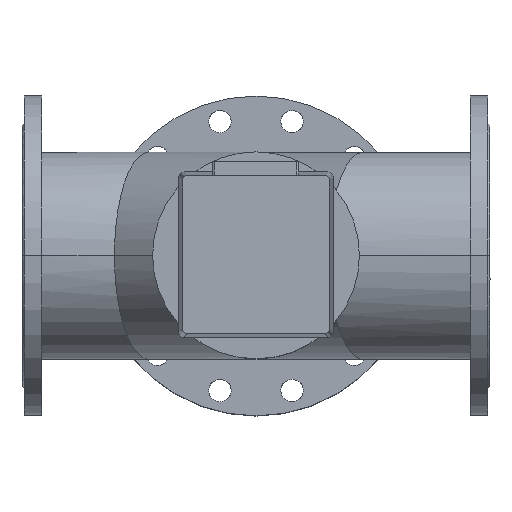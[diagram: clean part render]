
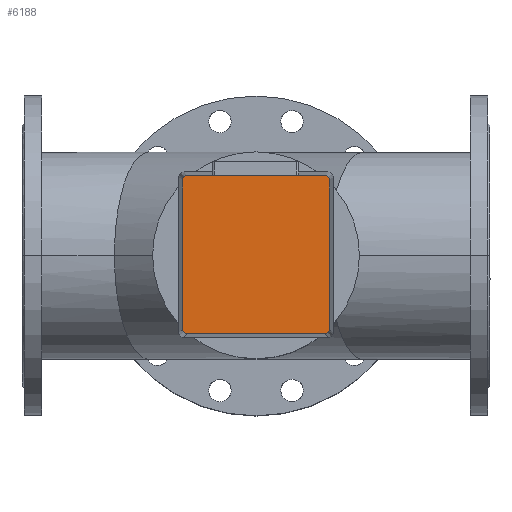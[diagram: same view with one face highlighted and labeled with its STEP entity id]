
A CAD part, top view. The second image highlights one B-rep face of the part: STEP entity #6188.
In plain terms, the highlighted planar face has unit normal (0, 0, 1).
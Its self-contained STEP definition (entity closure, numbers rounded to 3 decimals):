
#423=LINE('',#10653,#743);
#424=LINE('',#10657,#744);
#425=LINE('',#10661,#745);
#426=LINE('',#10665,#746);
#743=VECTOR('',#8732,304.8);
#744=VECTOR('',#8735,304.8);
#745=VECTOR('',#8738,304.8);
#746=VECTOR('',#8741,304.8);
#1417=FACE_OUTER_BOUND('',#1874,.T.);
#1874=EDGE_LOOP('',(#5115,#5116,#5117,#5118,#5119,#5120,#5121,#5122));
#2337=CIRCLE('',#6943,6.);
#2338=CIRCLE('',#6944,6.);
#2339=CIRCLE('',#6945,6.);
#2340=CIRCLE('',#6946,6.);
#2887=VERTEX_POINT('',#10651);
#2888=VERTEX_POINT('',#10652);
#2889=VERTEX_POINT('',#10654);
#2890=VERTEX_POINT('',#10656);
#2891=VERTEX_POINT('',#10658);
#2892=VERTEX_POINT('',#10660);
#2893=VERTEX_POINT('',#10662);
#2894=VERTEX_POINT('',#10664);
#3647=EDGE_CURVE('',#2887,#2888,#423,.T.);
#3648=EDGE_CURVE('',#2888,#2889,#2337,.T.);
#3649=EDGE_CURVE('',#2889,#2890,#424,.T.);
#3650=EDGE_CURVE('',#2890,#2891,#2338,.T.);
#3651=EDGE_CURVE('',#2891,#2892,#425,.T.);
#3652=EDGE_CURVE('',#2892,#2893,#2339,.T.);
#3653=EDGE_CURVE('',#2893,#2894,#426,.T.);
#3654=EDGE_CURVE('',#2894,#2887,#2340,.T.);
#5115=ORIENTED_EDGE('',*,*,#3647,.T.);
#5116=ORIENTED_EDGE('',*,*,#3648,.T.);
#5117=ORIENTED_EDGE('',*,*,#3649,.T.);
#5118=ORIENTED_EDGE('',*,*,#3650,.T.);
#5119=ORIENTED_EDGE('',*,*,#3651,.T.);
#5120=ORIENTED_EDGE('',*,*,#3652,.T.);
#5121=ORIENTED_EDGE('',*,*,#3653,.T.);
#5122=ORIENTED_EDGE('',*,*,#3654,.T.);
#5584=PLANE('',#6942);
#6188=ADVANCED_FACE('',(#1417),#5584,.T.);
#6942=AXIS2_PLACEMENT_3D('',#10650,#8730,#8731);
#6943=AXIS2_PLACEMENT_3D('',#10655,#8733,#8734);
#6944=AXIS2_PLACEMENT_3D('',#10659,#8736,#8737);
#6945=AXIS2_PLACEMENT_3D('',#10663,#8739,#8740);
#6946=AXIS2_PLACEMENT_3D('',#10666,#8742,#8743);
#8730=DIRECTION('center_axis',(0.,0.,1.));
#8731=DIRECTION('ref_axis',(0.,-1.,0.));
#8732=DIRECTION('',(0.,-1.,0.));
#8733=DIRECTION('center_axis',(0.,0.,1.));
#8734=DIRECTION('ref_axis',(1.,0.,0.));
#8735=DIRECTION('',(1.,0.,0.));
#8736=DIRECTION('center_axis',(0.,0.,1.));
#8737=DIRECTION('ref_axis',(1.,0.,0.));
#8738=DIRECTION('',(0.,1.,0.));
#8739=DIRECTION('center_axis',(0.,0.,1.));
#8740=DIRECTION('ref_axis',(1.,0.,0.));
#8741=DIRECTION('',(-1.,0.,0.));
#8742=DIRECTION('center_axis',(0.,0.,1.));
#8743=DIRECTION('ref_axis',(1.,0.,0.));
#10650=CARTESIAN_POINT('Origin',(0.,0.,
692.));
#10651=CARTESIAN_POINT('',(-105.,91.5,692.));
#10652=CARTESIAN_POINT('',(-105.,-91.5,692.));
#10653=CARTESIAN_POINT('',(-105.,-91.5,692.));
#10654=CARTESIAN_POINT('',(-99.,-97.5,692.));
#10655=CARTESIAN_POINT('Origin',(-99.,-91.5,692.));
#10656=CARTESIAN_POINT('',(99.,-97.5,692.));
#10657=CARTESIAN_POINT('',(99.,-97.5,692.));
#10658=CARTESIAN_POINT('',(105.,-91.5,692.));
#10659=CARTESIAN_POINT('Origin',(99.,-91.5,692.));
#10660=CARTESIAN_POINT('',(105.,91.5,692.));
#10661=CARTESIAN_POINT('',(105.,91.5,692.));
#10662=CARTESIAN_POINT('',(99.,97.5,692.));
#10663=CARTESIAN_POINT('Origin',(99.,91.5,692.));
#10664=CARTESIAN_POINT('',(-99.,97.5,692.));
#10665=CARTESIAN_POINT('',(-99.,97.5,692.));
#10666=CARTESIAN_POINT('Origin',(-99.,91.5,692.));
